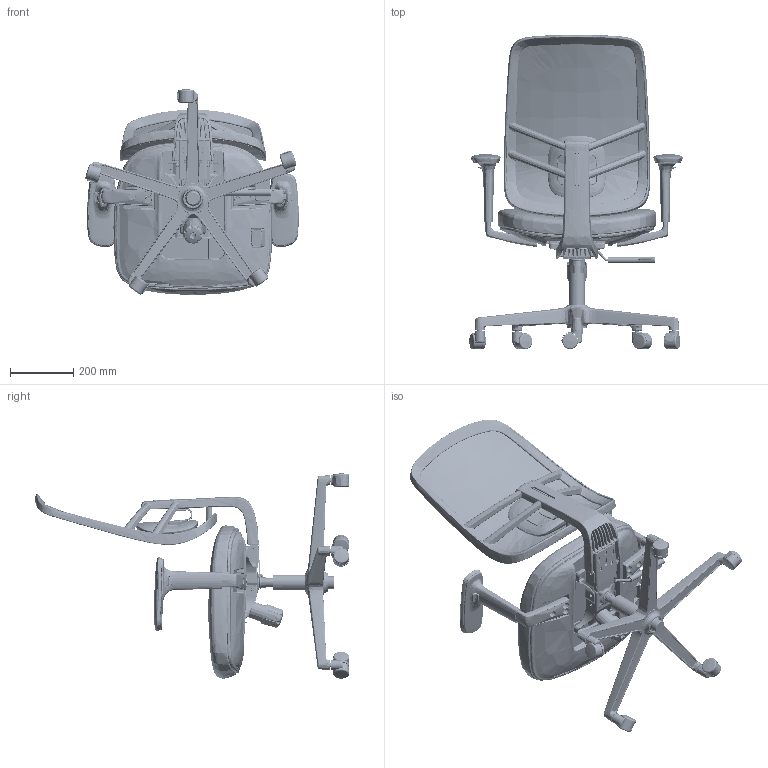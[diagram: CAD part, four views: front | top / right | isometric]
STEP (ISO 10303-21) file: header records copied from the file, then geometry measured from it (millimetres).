
FILE_DESCRIPTION((''),'2;1');
FILE_NAME('000_D266_ALL_ASM_14_ASM','2024-11-06T',('Administrator'),(''),'PRO/ENGINEER BY PARAMETRIC TECHNOLOGY CORPORATION, 2011310','PRO/ENGINEER BY PARAMETRIC TECHNOLOGY CORPORATION, 2011310','');
FILE_SCHEMA(('AUTOMOTIVE_DESIGN { 1 2 10303 214 0 1 1 1 }'));
Products named in the file (53): MANIFOLD_SOLID_BREP_110_3; MANIFOLD_SOLID_BREP_107_2; MANIFOLD_SOLID_BREP_104_3; MANIFOLD_SOLID_BREP_112_2; MANIFOLD_SOLID_BREP_115_3; MANIFOLD_SOLID_BREP_108_3; MANIFOLD_SOLID_BREP_109_3; MANIFOLD_SOLID_BREP_113_3; MANIFOLD_SOLID_BREP_105_2; MANIFOLD_SOLID_BREP_106_2; D265_HANDLE_B_3; D265_HANDLE_A_3; G011_ALL_ASM_5_ASM; D265_BASE_340_4; PNEUMATIC_BAR100_30_3; PRT0041_2; 5030_2; D265_BASE_340_ASM_4_ASM; D265_SEAT_D_2; D265_SEAT_E_2; D265_SEAT_F_2; 4_C_05-025_2; D265_SEAT_G_2; 4-D-02_006-Y1_3; ASM0003_ASM_3_ASM; D265_SEAT_A_3; D265_SEAT_C_2; D265_SEAT_PM0_3; D265_SEAT_ALL_ASM_3_ASM; MANIFOLD_SOLID_BREP_263672; MANIFOLD_SOLID_BREP_273951; D265_ARMREST_C_4_ASM; BREP_WITH_VOIDS_320762; MANIFOLD_SOLID_BREP_366699; D265_ARMREST_A_3_ASM; MANIFOLD_SOLID_BREP_373438; MANIFOLD_SOLID_BREP_380140; D265_ARMREST_D_2_ASM; MANIFOLD_SOLID_BREP_383157; MANIFOLD_SOLID_BREP_386142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
Assembly tree (62 placements, depth 4):
  000_D266_ALL_ASM_14_ASM
    G011_ALL_ASM_5_ASM
      MANIFOLD_SOLID_BREP_110_3
      MANIFOLD_SOLID_BREP_107_2
      MANIFOLD_SOLID_BREP_104_3
      MANIFOLD_SOLID_BREP_112_2
      MANIFOLD_SOLID_BREP_115_3
      MANIFOLD_SOLID_BREP_108_3
      MANIFOLD_SOLID_BREP_109_3
      MANIFOLD_SOLID_BREP_113_3
      MANIFOLD_SOLID_BREP_105_2
      MANIFOLD_SOLID_BREP_106_2
      D265_HANDLE_B_3
      D265_HANDLE_A_3
    D265_BASE_340_ASM_4_ASM
      D265_BASE_340_4
      PNEUMATIC_BAR100_30_3
      PRT0041_2
      5030_2  x5
    D265_SEAT_ALL_ASM_3_ASM
      ASM0003_ASM_3_ASM
        D265_SEAT_D_2
        D265_SEAT_E_2  x3
        D265_SEAT_F_2  x4
        4_C_05-025_2  x2
        D265_SEAT_G_2
        4-D-02_006-Y1_3
      D265_SEAT_A_3
      D265_SEAT_C_2
      D265_SEAT_PM0_3
    D265_ARMREST_ALL_ASM_2_ASM
      D265_ARMREST_C_4_ASM
        MANIFOLD_SOLID_BREP_263672
        MANIFOLD_SOLID_BREP_273951
      D265_ARMREST_A_3_ASM
        BREP_WITH_VOIDS_320762
        MANIFOLD_SOLID_BREP_366699
      D265_ARMREST_D_2_ASM
        MANIFOLD_SOLID_BREP_373438
        MANIFOLD_SOLID_BREP_380140
      D265_ARMREST_B_20221111_2_ASM
        MANIFOLD_SOLID_BREP_383157
        MANIFOLD_SOLID_BREP_386142
    D266_BACK_ALL_ASM_7_ASM
      D266_BACK_A-20221220_2
      D266_BACK_B_2
      D266_BACK_C_2
      D266_BACK_D-20221123_2
      D265_YK_ALL_ASM_4_ASM
        D265_BACK_B_4
      D266_YK_A20230505_3
      PRT0004_2
      D266_YK_PM_240112_3
Bounding box: 676.03 x 995.14 x 650.06 mm (x, y, z)
Volume: 23635960.2 mm3; surface area: 3376680.7 mm2
Topology: 51 solids, 54 shells, 10475 faces, 26160 edges, 15523 vertices
Faces by surface type: bspline 3761, cylinder 3054, plane 1709, torus 923, cone 459, sphere 362, extrusion 200, revolution 7
Entity records: 544105 total; most frequent: CARTESIAN_POINT 366940, ORIENTED_EDGE 42458, DIRECTION 26521, EDGE_CURVE 21229, VERTEX_POINT 12848, B_SPLINE_CURVE_WITH_KNOTS 10785, AXIS2_PLACEMENT_3D 10584, EDGE_LOOP 8801
